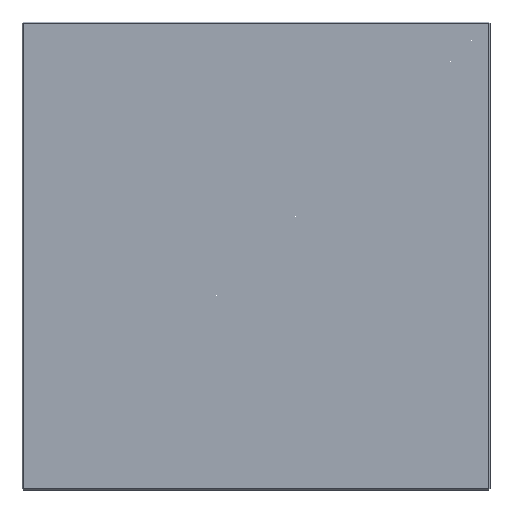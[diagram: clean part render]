
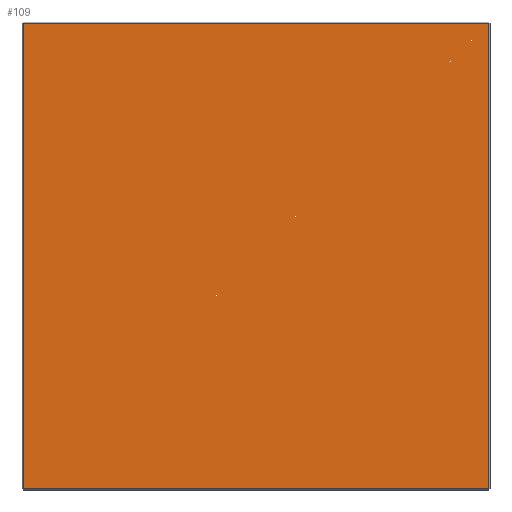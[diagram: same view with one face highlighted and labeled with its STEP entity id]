
A CAD part, front view. The second image highlights one B-rep face of the part: STEP entity #109.
In plain terms, the highlighted planar face has unit normal (0, -1, 0).
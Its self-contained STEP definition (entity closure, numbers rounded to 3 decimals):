
#4 = CARTESIAN_POINT ( 'NONE',  ( -222., 0., 222. ) ) ;
#6 = EDGE_CURVE ( 'NONE', #112, #220, #410, .T. ) ;
#42 = LINE ( 'NONE', #474, #245 ) ;
#48 = CARTESIAN_POINT ( 'NONE',  ( 222., 0., 222. ) ) ;
#58 = VECTOR ( 'NONE', #534, 1000. ) ;
#75 = CARTESIAN_POINT ( 'NONE',  ( 0., 0., 222. ) ) ;
#84 = LINE ( 'NONE', #75, #58 ) ;
#108 = FACE_OUTER_BOUND ( 'NONE', #223, .T. ) ;
#109 = ADVANCED_FACE ( 'NONE', ( #108 ), #478, .F. ) ;
#112 = VERTEX_POINT ( 'NONE', #267 ) ;
#162 = VERTEX_POINT ( 'NONE', #4 ) ;
#179 = ORIENTED_EDGE ( 'NONE', *, *, #370, .T. ) ;
#183 = LINE ( 'NONE', #382, #298 ) ;
#187 = EDGE_CURVE ( 'NONE', #220, #162, #84, .T. ) ;
#212 = AXIS2_PLACEMENT_3D ( 'NONE', #445, #278, #440 ) ;
#220 = VERTEX_POINT ( 'NONE', #48 ) ;
#223 = EDGE_LOOP ( 'NONE', ( #400, #477, #306, #179 ) ) ;
#245 = VECTOR ( 'NONE', #372, 1000. ) ;
#267 = CARTESIAN_POINT ( 'NONE',  ( 222., 0., -222. ) ) ;
#278 = DIRECTION ( 'NONE',  ( 0., 1., 0. ) ) ;
#289 = CARTESIAN_POINT ( 'NONE',  ( 222., 0., 0. ) ) ;
#298 = VECTOR ( 'NONE', #327, 1000. ) ;
#306 = ORIENTED_EDGE ( 'NONE', *, *, #383, .T. ) ;
#327 = DIRECTION ( 'NONE',  ( 1., 0., 0. ) ) ;
#341 = DIRECTION ( 'NONE',  ( 0., 0., 1. ) ) ;
#370 = EDGE_CURVE ( 'NONE', #525, #112, #183, .T. ) ;
#372 = DIRECTION ( 'NONE',  ( 0., 0., -1. ) ) ;
#382 = CARTESIAN_POINT ( 'NONE',  ( 0., 0., -222. ) ) ;
#383 = EDGE_CURVE ( 'NONE', #162, #525, #42, .T. ) ;
#400 = ORIENTED_EDGE ( 'NONE', *, *, #6, .T. ) ;
#410 = LINE ( 'NONE', #289, #419 ) ;
#419 = VECTOR ( 'NONE', #341, 1000. ) ;
#440 = DIRECTION ( 'NONE',  ( 0., 0., 1. ) ) ;
#445 = CARTESIAN_POINT ( 'NONE',  ( 0., 0., 0. ) ) ;
#474 = CARTESIAN_POINT ( 'NONE',  ( -222., 0., 0. ) ) ;
#477 = ORIENTED_EDGE ( 'NONE', *, *, #187, .T. ) ;
#478 = PLANE ( 'NONE',  #212 ) ;
#525 = VERTEX_POINT ( 'NONE', #607 ) ;
#534 = DIRECTION ( 'NONE',  ( -1., 0., 0. ) ) ;
#607 = CARTESIAN_POINT ( 'NONE',  ( -222., 0., -222. ) ) ;
